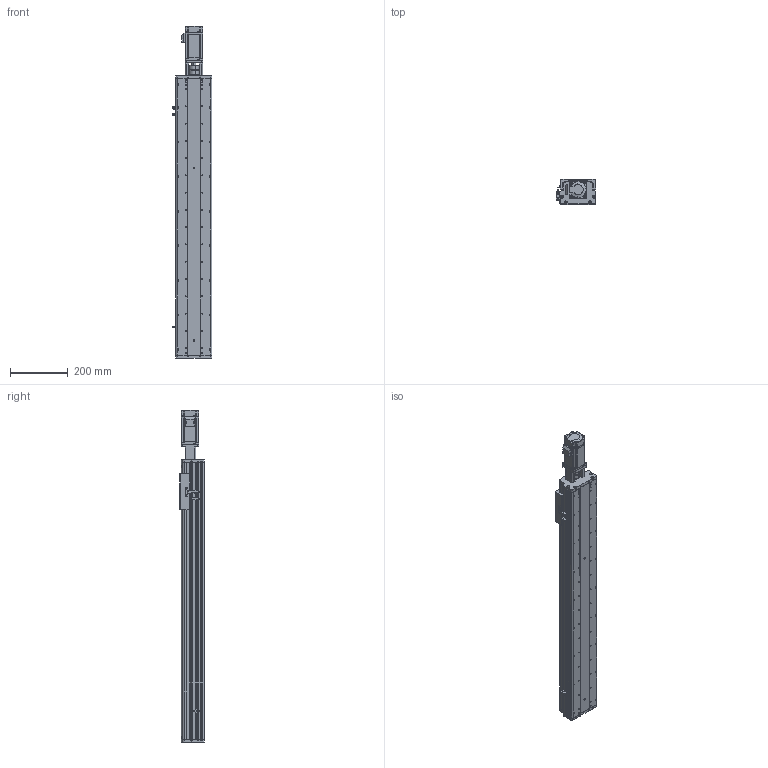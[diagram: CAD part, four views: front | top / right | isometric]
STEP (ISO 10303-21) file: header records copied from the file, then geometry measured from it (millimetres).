
FILE_DESCRIPTION (( 'STEP AP214' ), '1' );
FILE_NAME ('KSD125S-S750-MT-CM.STEP', '2017-08-07T06:46:46', ( '微软用户' ), ( '微软中国' ), 'SwSTEP 2.0', 'SolidWorks 2014', '' );
FILE_SCHEMA (( 'AUTOMOTIVE_DESIGN' ));
Length unit declared in the file: millimetre
Products named in the file (13): 100遵鎮湛假蚾啣1 ; 拸萇儂釱滅袉菜; 覜茼え68遵圉猾敕; U倰嫖萇假蚾璃; U倰嫖萇EEㄜSX672; ヶ傷啣-125遵耀郪; KSD125-賑雄釱1; KSD125S-750俴最佪裝菁啣; CS-34X32-10X14; 125-帣傷啣1; KSD125S-S750-MT-CM; KSD125S-750俴最佪裝滅鳥裔; MHMD042G1CA_2_03
Assembly tree (16 placements, depth 2):
  KSD125S-S750-MT-CM
    125-帣傷啣1
    CS-34X32-10X14
    KSD125-賑雄釱1
    ヶ傷啣-125遵耀郪
    U倰嫖萇EEㄜSX672  x3
    U倰嫖萇假蚾璃  x3
    覜茼え68遵圉猾敕
    拸萇儂釱滅袉菜
    100遵鎮湛假蚾啣1 
    MHMD042G1CA_2_03
    KSD125S-750俴最佪裝菁啣
    KSD125S-750俴最佪裝滅鳥裔
Bounding box: 138.7 x 86 x 1153.5 mm (x, y, z)
Volume: 3235668.4 mm3; surface area: 1069664.6 mm2
Topology: 15 solids, 18 shells, 1568 faces, 4526 edges, 2979 vertices
Faces by surface type: cylinder 810, plane 645, cone 91, bspline 22
Entity records: 55447 total; most frequent: CARTESIAN_POINT 11634, DIRECTION 7964, ORIENTED_EDGE 7560, EDGE_CURVE 3858, AXIS2_PLACEMENT_3D 2951, VERTEX_POINT 2571, VECTOR 2062, LINE 2062
